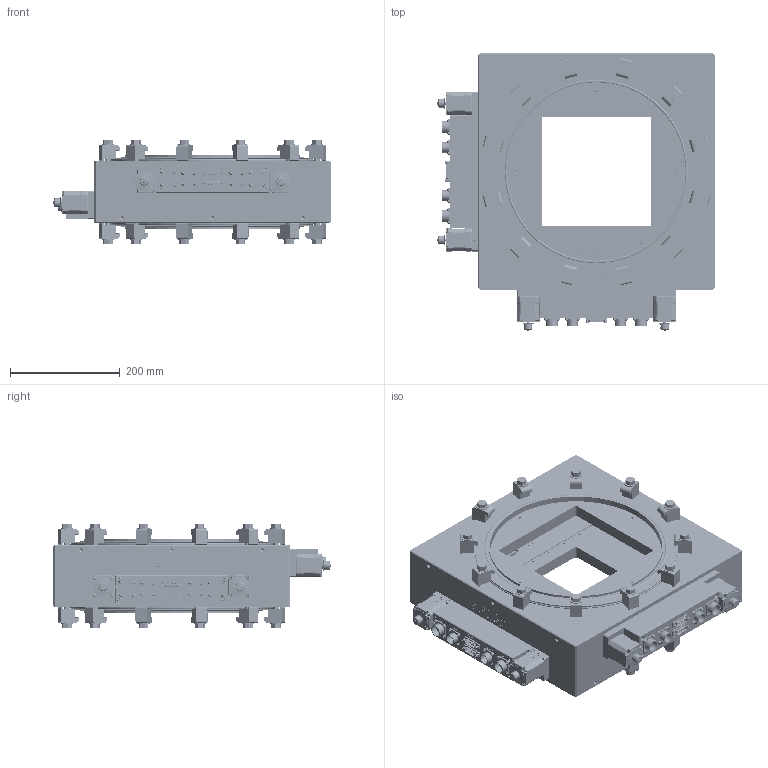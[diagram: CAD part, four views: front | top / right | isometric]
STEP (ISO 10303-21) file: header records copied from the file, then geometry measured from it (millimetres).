
FILE_DESCRIPTION(/* description */ (''),/* implementation_level */ '2;1');
FILE_NAME(/* name */ 'C:\WF\Designs\Slitter\13055 IB C180 HV slit\step\IB-C180-HV.stp',/* time_stamp */ '2016-11-01T13:53:03+01:00',/* author */ ('Henning'),/* organization */ ('JJ X-RAY'),/* preprocessor_version */ 'ST-DEVELOPER v16.1',/* originating_system */ 'Autodesk Inventor 2016',/* authorisation */ '');
FILE_SCHEMA (('AUTOMOTIVE_DESIGN { 1 0 10303 214 3 1 1 }'));
Products named in the file (23): 13055010; 982007d4; 982009d4; 030103a4; Dsub 15 Pin, 2 Row, Male; ISO 4762 - M3 x 12DIN EN ISO; PK245M-01B_Derived; 13055031; T1412RMS1NB; T11208RMS1NB; D-Connector screw; ISO 7045 - M3 x 8 - 4.8 - ZDIN EN ISO; Scale_button_A; ISO 4762 - M5 x 50DIN EN ISO; DIN 7985 (H) - M3x30-H; 13055002 for step; 13055010B; 13055004 for step; QF-PSC-ALM; QF320-AABR; 13055026; DIN EN ISO 7046-1 - M3 x 8 - 4.8 - H; 13055005 for step
Assembly tree (176 placements, depth 3):
  13055005 for step
    13055002 for step
      13055010
      982007d4  x2
      982009d4  x2
      030103a4  x2
      Dsub 15 Pin, 2 Row, Male  x4
      ISO 4762 - M3 x 12DIN EN ISO  x8
      PK245M-01B_Derived  x2
      13055031
      T1412RMS1NB  x2
      T11208RMS1NB  x2
      D-Connector screw  x4
      ISO 7045 - M3 x 8 - 4.8 - ZDIN EN ISO  x16
      Scale_button_A  x2
      ISO 4762 - M5 x 50DIN EN ISO  x4
      DIN 7985 (H) - M3x30-H  x8
    13055004 for step
      13055010B
      982007d4  x2
      982009d4  x2
      030103a4  x2
      Dsub 15 Pin, 2 Row, Male  x4
      ISO 4762 - M3 x 12DIN EN ISO  x8
      PK245M-01B_Derived  x2
      13055031
      T1412RMS1NB  x2
      T11208RMS1NB  x2
      D-Connector screw  x4
      ISO 7045 - M3 x 8 - 4.8 - ZDIN EN ISO  x16
      Scale_button_A  x2
    ISO 4762 - M5 x 50DIN EN ISO  x12
    QF-PSC-ALM  x24
    QF320-AABR  x2
    13055026  x4
    DIN EN ISO 7046-1 - M3 x 8 - 4.8 - H  x24
Bounding box: 504.5 x 504.5 x 189.03 mm (x, y, z)
Volume: 9485417.1 mm3; surface area: 1773962.7 mm2
Topology: 174 solids, 174 shells, 14372 faces, 37400 edges, 24476 vertices
Faces by surface type: plane 7780, cylinder 2204, bspline 2158, cone 1564, torus 506, sphere 160
Full cylindrical faces by diameter (mm): 0.991 x120, 1.567 x16, 2.156 x16, 2.459 x186, 2.487 x8, 2.693 x24, 2.729 x32, 2.75 x8, 2.82 x8, 3 x80, 3.048 x16, 3.1 x24, 3.25 x32, 3.5 x32, 4 x8, 4.134 x28, 4.5 x16, 5 x28, 5.5 x60, 5.6 x16, 6 x16, 6.4 x8, 6.5 x8, 6.647 x18, 8.5 x16, 8.9 x4, 9 x24, 10.106 x24, 10.5 x4, 11.125 x24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
Entity records: 138947 total; most frequent: CARTESIAN_POINT 40167, ORIENTED_EDGE 20484, DIRECTION 17122, EDGE_CURVE 10242, VERTEX_POINT 7093, LINE 5746, VECTOR 5746, AXIS2_PLACEMENT_3D 5688
